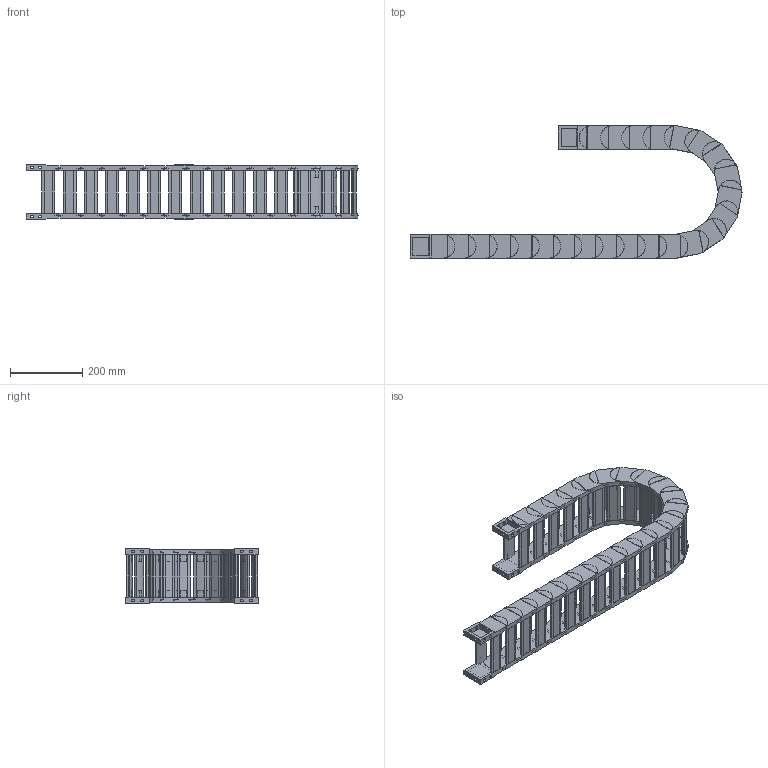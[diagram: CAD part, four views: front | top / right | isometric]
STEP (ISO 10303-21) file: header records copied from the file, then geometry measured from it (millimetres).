
FILE_DESCRIPTION((''),'2;1');
FILE_NAME('HD45-R150-ZPT_ASM','2022-06-20T19:59:28',('admin'),(''),'CREO PARAMETRIC BY PTC INC, 2021164','CREO PARAMETRIC BY PTC INC, 2021164','');
FILE_SCHEMA(('CONFIG_CONTROL_DESIGN','GEOMETRIC_VALIDATION_PROPERTIES_MIM'));
Length unit declared in the file: millimetre
Products named in the file (6): HD45-585; 45-500001; HD45_ASM; H45-T1-G; H45-T2-G; HD45-R150-ZPT_ASM
Assembly tree (29 placements, depth 3):
  HD45-R150-ZPT_ASM
    HD45_ASM  x23
      HD45-585
      45-500001
    H45-T1-G
    H45-T2-G
    45-500001  x2
Bounding box: 916.94 x 365 x 150.4 mm (x, y, z)
Volume: 4490513.8 mm3; surface area: 1523245.4 mm2
Topology: 100 solids, 100 shells, 1942 faces, 5198 edges, 3560 vertices
Faces by surface type: plane 1276, cylinder 666
Entity records: 8666 total; most frequent: CARTESIAN_POINT 1398, DIRECTION 1388, ORIENTED_EDGE 1276, EDGE_CURVE 638, AXIS2_PLACEMENT_3D 483, VERTEX_POINT 432, VECTOR 422, LINE 422
